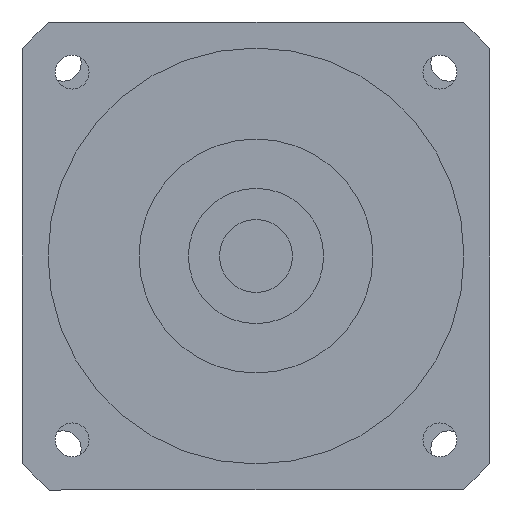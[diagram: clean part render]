
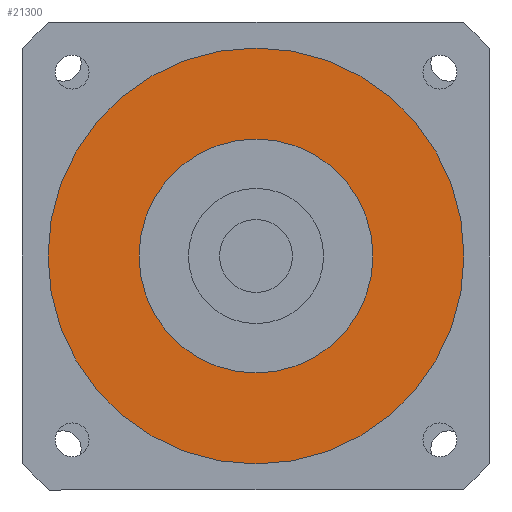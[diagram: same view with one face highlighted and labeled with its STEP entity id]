
A CAD part, left-side view. The second image highlights one B-rep face of the part: STEP entity #21300.
In plain terms, the highlighted planar face has unit normal (-1, 0, 0) as drawn and (0, 0, -1) by its records, which use the part's own axes.
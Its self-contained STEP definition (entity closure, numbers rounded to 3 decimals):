
#20720=CARTESIAN_POINT('',(-40.,0.,-120.));
#20730=VERTEX_POINT('',#20720);
#20820=CARTESIAN_POINT('',(40.,0.,-120.));
#20830=VERTEX_POINT('',#20820);
#20860=CARTESIAN_POINT('',(0.,0.,
-120.));
#20870=DIRECTION('',(0.,0.,1.));
#20880=DIRECTION('',(0.,-1.,0.));
#20890=AXIS2_PLACEMENT_3D('',#20860,#20870,#20880);
#20900=CIRCLE('',#20890,40.);
#20910=CARTESIAN_POINT('',(0.,-40.,-120.));
#20920=VERTEX_POINT('',#20910);
#20930=EDGE_CURVE('',#20920,#20830,#20900,.T.);
#20950=EDGE_CURVE('',#20730,#20920,#20900,.T.);
#21000=CARTESIAN_POINT('',(0.,0.,
-120.));
#21010=DIRECTION('',(0.,0.,1.));
#21020=DIRECTION('',(-1.,0.,0.));
#21030=AXIS2_PLACEMENT_3D('',#21000,#21010,#21020);
#21040=PLANE('',#21030);
#21050=CARTESIAN_POINT('',(0.,0.,
-120.));
#21060=DIRECTION('',(0.,0.,1.));
#21070=DIRECTION('',(0.,-1.,0.));
#21080=AXIS2_PLACEMENT_3D('',#21050,#21060,#21070);
#21090=CIRCLE('',#21080,22.5);
#21100=CARTESIAN_POINT('',(22.5,0.,-120.));
#21110=VERTEX_POINT('',#21100);
#21120=CARTESIAN_POINT('',(-22.5,0.,-120.));
#21130=VERTEX_POINT('',#21120);
#21140=EDGE_CURVE('',#21110,#21130,#21090,.T.);
#21150=ORIENTED_EDGE('',*,*,#21140,.T.);
#21160=CARTESIAN_POINT('',(0.,-22.5,-120.));
#21170=VERTEX_POINT('',#21160);
#21180=EDGE_CURVE('',#21170,#21110,#21090,.T.);
#21190=ORIENTED_EDGE('',*,*,#21180,.T.);
#21200=EDGE_CURVE('',#21130,#21170,#21090,.T.);
#21210=ORIENTED_EDGE('',*,*,#21200,.T.);
#21220=EDGE_LOOP('',(#21210,#21190,#21150));
#21230=FACE_BOUND('',#21220,.T.);
#21240=ORIENTED_EDGE('',*,*,#20930,.F.);
#21250=EDGE_CURVE('',#20830,#20730,#20900,.T.);
#21260=ORIENTED_EDGE('',*,*,#21250,.F.);
#21270=ORIENTED_EDGE('',*,*,#20950,.F.);
#21280=EDGE_LOOP('',(#21270,#21260,#21240));
#21290=FACE_OUTER_BOUND('',#21280,.T.);
#21300=ADVANCED_FACE('',(#21230,#21290),#21040,.F.);
